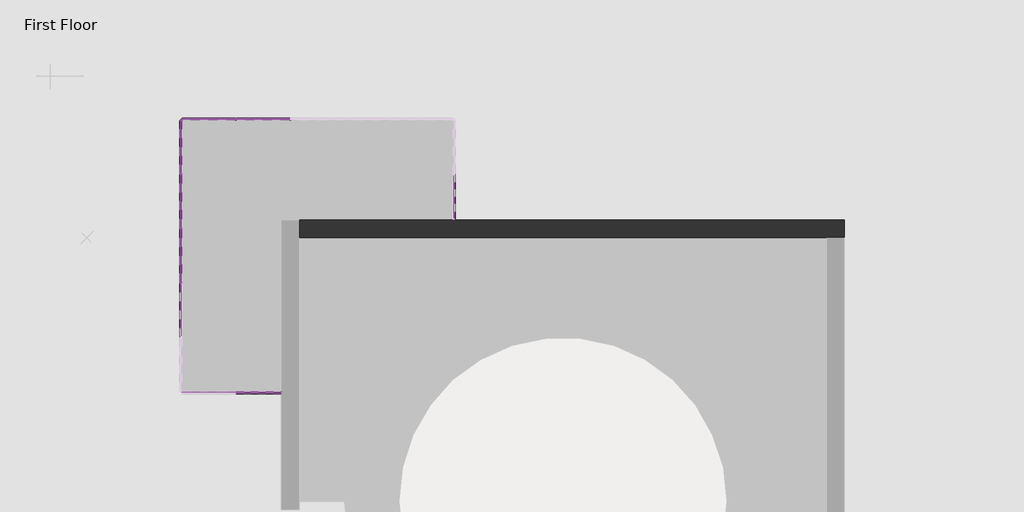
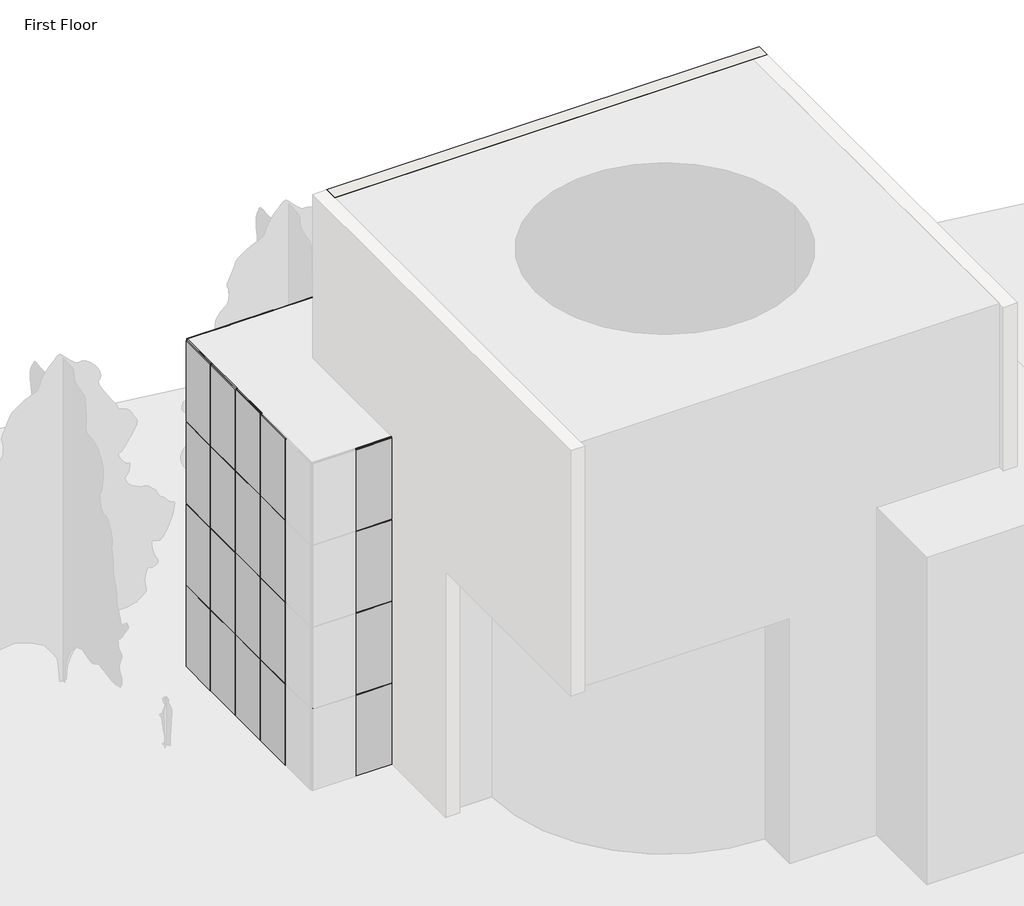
# One storey, part 4 of 5: 71 members, 32 plates, 1 wall.
"""IFC4 building model written with IfcOpenShell, lengths in millimetres."""

import ifcopenshell
import ifcopenshell.guid

model = None  # the IFC model being written
_history = None  # IfcOwnerHistory: only IFC2X3 demands one
_inside = {}  # id of a spatial element -> (the spatial element, [elements in it])
_under = {}  # id of a project, library or spatial element -> (it, [spatial elements below it])
_declared = {}  # id of a project -> (the project, [libraries it declares])
_typed = {}  # id of a type object -> (the type object, [elements of that type])
_made_of = {}  # id of a material, layer set ... -> (it, [elements and type objects made of it])


def new_model(schema):
    """Start an empty IFC model of exactly this schema.

    Asked for "IFC4X3", IfcOpenShell would pick the latest addendum, in which some entities
    have other attributes; the version numbers below select the first issue.
    IFC2X3 requires an IfcOwnerHistory on every rooted entity: one is made here for all.
    """
    global model, _history
    if schema == "IFC4X3":
        model = ifcopenshell.file(schema_version=(4, 3, 0, 0))
    else:
        model = ifcopenshell.file(schema=schema)
    _inside.clear()
    _under.clear()
    _declared.clear()
    _typed.clear()
    _made_of.clear()
    _history = None
    if model.schema == "IFC2X3":
        org = make("IfcOrganization", Name="unknown")
        user = make(
            "IfcPersonAndOrganization",
            ThePerson=make("IfcPerson", FamilyName="unknown"),
            TheOrganization=org,
        )
        app = make(
            "IfcApplication",
            ApplicationDeveloper=org,
            Version="unknown",
            ApplicationFullName="unknown",
            ApplicationIdentifier="unknown",
        )
        _history = make(
            "IfcOwnerHistory",
            OwningUser=user,
            OwningApplication=app,
            ChangeAction="ADDED",
            CreationDate=0,
        )
    return model


def make(cls, **values):
    """One entity of the class cls with the attributes given. An attribute that is None is left unset."""
    return model.create_entity(
        cls, **{name: value for name, value in values.items() if value is not None}
    )


def rooted(cls, **values):
    """An entity with a GlobalId (a new one), such as an element, a storey or a relation."""
    return make(cls, GlobalId=ifcopenshell.guid.new(), OwnerHistory=_history, **values)


def si_unit(unit_type, name, prefix=None):
    """IfcSIUnit, for example si_unit("LENGTHUNIT", "METRE", prefix="MILLI")."""
    return make("IfcSIUnit", UnitType=unit_type, Prefix=prefix, Name=name)


def assignment(units):
    """IfcUnitAssignment: the units of a project."""
    return None if units is None else make("IfcUnitAssignment", Units=units)


def point(xyz):
    """IfcCartesianPoint."""
    return None if xyz is None else make("IfcCartesianPoint", Coordinates=xyz)


def direction(xyz):
    """IfcDirection."""
    return None if xyz is None else make("IfcDirection", DirectionRatios=xyz)


def frame(location, z_axis=None, x_axis=None):
    """IfcAxis2Placement3D, a coordinate frame: its origin and axes. An axis left out is left unset."""
    return make(
        "IfcAxis2Placement3D",
        Location=point(location),
        Axis=direction(z_axis),
        RefDirection=direction(x_axis),
    )


def origin():
    """The frame at (0, 0, 0) with its axes left unset."""
    return frame((0.0, 0.0, 0.0))


def origin_with_axes():
    """The frame at (0, 0, 0) with the z axis (0, 0, 1) and the x axis (1, 0, 0) written out."""
    return frame((0.0, 0.0, 0.0), z_axis=(0.0, 0.0, 1.0), x_axis=(1.0, 0.0, 0.0))


def place(relative_to, where):
    """IfcLocalPlacement: puts the frame where relative to a parent placement (None: the world)."""
    return make(
        "IfcLocalPlacement", PlacementRelTo=relative_to, RelativePlacement=where
    )


def context(
    kind, dimensions, precision=None, world=None, true_north=None, identifier=None
):
    """IfcGeometricRepresentationContext, for example the 3D "Model" context."""
    return make(
        "IfcGeometricRepresentationContext",
        ContextIdentifier=identifier,
        ContextType=kind,
        CoordinateSpaceDimension=dimensions,
        Precision=precision,
        WorldCoordinateSystem=world,
        TrueNorth=true_north,
    )


def project(units=None, contexts=None):
    """IfcProject with its units and contexts."""
    return rooted(
        "IfcProject",
        Name="project",
        RepresentationContexts=contexts,
        UnitsInContext=assignment(units),
    )


def spatial(cls, under=None, at=None, **own):
    """A site, building, storey or space (cls), placed at a placement, below another one or the project."""
    s = rooted(cls, ObjectPlacement=at, **own)
    if under is not None:
        _under.setdefault(under.id(), (under, []))[1].append(s)
    return s


def polyline(points):
    """IfcPolyline through the points."""
    return make("IfcPolyline", Points=[point(p) for p in points])


def outline(outer, holes=None, kind="AREA"):
    """IfcArbitraryClosedProfileDef: a profile drawn as a closed curve; with holes, ...WithVoids."""
    if holes is None:
        return make("IfcArbitraryClosedProfileDef", ProfileType=kind, OuterCurve=outer)
    return make(
        "IfcArbitraryProfileDefWithVoids",
        ProfileType=kind,
        OuterCurve=outer,
        InnerCurves=holes,
    )


def extrude(swept, where, along, depth):
    """IfcExtrudedAreaSolid: the profile swept, set in the frame where, extruded along a direction by depth."""
    return make(
        "IfcExtrudedAreaSolid",
        SweptArea=swept,
        Position=where,
        ExtrudedDirection=direction(along),
        Depth=depth,
    )


def faces_of(points, faces, orient=None, outer=None):
    """IfcFace entities. A face is a list of loops; a loop is a list of indices into points, from 0.

    orient and outer hold one flag for each loop. By default every Orientation is true, the
    first loop of a face is its IfcFaceOuterBound and the others are IfcFaceBound.
    """
    made = []
    for i, loops in enumerate(faces):
        bounds = []
        for j, loop in enumerate(loops):
            is_outer = j == 0 if outer is None else outer[i][j]
            bounds.append(
                make(
                    "IfcFaceOuterBound" if is_outer else "IfcFaceBound",
                    Bound=make("IfcPolyLoop", Polygon=[points[k] for k in loop]),
                    Orientation=True if orient is None else orient[i][j],
                )
            )
        made.append(make("IfcFace", Bounds=bounds))
    return made


def faceted_brep(points, faces, orient=None, outer=None, voids=None):
    """IfcFacetedBrep: a solid bounded by flat faces; with voids (closed shells), ...WithVoids."""
    shared = [point(p) for p in points]
    hull = make("IfcClosedShell", CfsFaces=faces_of(shared, faces, orient, outer))
    if voids is None:
        return make("IfcFacetedBrep", Outer=hull)
    return make(
        "IfcFacetedBrepWithVoids",
        Outer=hull,
        Voids=[
            make(cls, CfsFaces=faces_of(shared, fs, o, b)) for cls, fs, o, b in voids
        ],
    )


def shape(context_of_items, identifier, shape_type, items):
    """IfcShapeRepresentation: the items that make up one representation, for example the "Body"."""
    return make(
        "IfcShapeRepresentation",
        ContextOfItems=context_of_items,
        RepresentationIdentifier=identifier,
        RepresentationType=shape_type,
        Items=items,
    )


def source(mapping_origin, context_of_items, identifier, shape_type, items):
    """IfcRepresentationMap: a shape defined once, which mapped items show again and again."""
    return make(
        "IfcRepresentationMap",
        MappingOrigin=mapping_origin,
        MappedRepresentation=shape(context_of_items, identifier, shape_type, items),
    )


def transform(
    local_origin,
    x_axis=None,
    y_axis=None,
    z_axis=None,
    scale=None,
    scale2=None,
    scale3=None,
    uniform=True,
):
    """IfcCartesianTransformationOperator3D, or its non-uniform kind. x_axis, y_axis, z_axis: its Axis1, 2, 3."""
    if uniform:
        return make(
            "IfcCartesianTransformationOperator3D",
            Axis1=direction(x_axis),
            Axis2=direction(y_axis),
            LocalOrigin=point(local_origin),
            Scale=scale,
            Axis3=direction(z_axis),
        )
    return make(
        "IfcCartesianTransformationOperator3DnonUniform",
        Axis1=direction(x_axis),
        Axis2=direction(y_axis),
        LocalOrigin=point(local_origin),
        Scale=scale,
        Axis3=direction(z_axis),
        Scale2=scale2,
        Scale3=scale3,
    )


def mapped(mapping_source, mapping_target):
    """IfcMappedItem: shows the shape of a source again, moved by a transform."""
    return make(
        "IfcMappedItem", MappingSource=mapping_source, MappingTarget=mapping_target
    )


def made_of(thing, what):
    """Note that an element or type object is made of a material, layer set ...; save() writes the relation."""
    if what is not None:
        _made_of.setdefault(what.id(), (what, []))[1].append(thing)
    return thing


def element(
    cls,
    number,
    at=None,
    inside=None,
    cuts=None,
    type_object=None,
    material=None,
    context=None,
    identifier="Body",
    shape_type=None,
    held_by="IfcProductDefinitionShape",
    body=None,
    shapes=None,
    **own,
):
    """One element of the class cls, such as IfcWall. Its Tag is "e" and its number.

    at: its placement. inside: the storey or other place that contains it. cuts: it is an
    opening in that element (IfcRelVoidsElement). A single representation is given by context,
    identifier, shape_type and body (its items); several are given by shapes. held_by: the class
    of the entity that holds the representations. save() writes the other relations.
    """
    e = rooted(cls, Tag="e%d" % number, ObjectPlacement=at, **own)
    if body is not None:
        shapes = [shape(context, identifier, shape_type, body)]
    if shapes is not None:
        e.Representation = make(held_by, Representations=shapes)
    if inside is not None:
        _inside.setdefault(inside.id(), (inside, []))[1].append(e)
    if cuts is not None:
        rooted(
            "IfcRelVoidsElement", RelatingBuildingElement=cuts, RelatedOpeningElement=e
        )
    if type_object is not None:
        _typed.setdefault(type_object.id(), (type_object, []))[1].append(e)
    return made_of(e, material)


def aggregate(whole, parts):
    """IfcRelAggregates: a whole, such as a stair, and the parts it consists of."""
    return rooted("IfcRelAggregates", RelatingObject=whole, RelatedObjects=parts)


def save(model, path):
    """Write the relations noted so far, then the file.

    IfcRelAggregates (storeys below a building ...), IfcRelContainedInSpatialStructure (elements
    in a storey), IfcRelDefinesByType, IfcRelAssociatesMaterial and IfcRelDeclares: one each for
    every whole, place, type object, material and project.
    """
    for whole, parts in _under.values():
        aggregate(whole, parts)
    for where, things in _inside.values():
        rooted(
            "IfcRelContainedInSpatialStructure",
            RelatedElements=things,
            RelatingStructure=where,
        )
    for kind, things in _typed.values():
        rooted("IfcRelDefinesByType", RelatedObjects=things, RelatingType=kind)
    for what, things in _made_of.values():
        rooted("IfcRelAssociatesMaterial", RelatedObjects=things, RelatingMaterial=what)
    for by, libraries in _declared.values():
        rooted("IfcRelDeclares", RelatingContext=by, RelatedDefinitions=libraries)
    model.write(path)


def member_40ce1a5c(model_context):
    return source(origin(), model_context, "Body", "SweptSolid", [
        extrude(outline(polyline([(12.7, 12.7), (12.7, -12.7), (-12.7, -12.7), (-12.7, 12.7), (12.7, 12.7)])), frame((0.0, 0.0, -1241.425), z_axis=(0.0, 0.0, 1.0), x_axis=(1.0, 0.0, 0.0)), (0.0, 0.0, 1.0), 1241.425),
    ])


def member_5e617a80(model_context):
    return source(origin(), model_context, "Body", "SweptSolid", [
        extrude(outline(polyline([(12.7, 12.7), (12.7, -12.7), (-12.7, -12.7), (-12.7, 12.7), (12.7, 12.7)])), frame((0.0, 0.0, -1485.9), z_axis=(0.0, 0.0, 1.0), x_axis=(1.0, 0.0, 0.0)), (0.0, 0.0, 1.0), 1485.9),
    ])


def member_74941792(model_context):
    return source(origin(), model_context, "Body", "SweptSolid", [
        extrude(outline(polyline([(0.0, 12.7), (0.0, -12.7), (-25.4, -12.7), (-25.4, 12.7), (0.0, 12.7)])), frame((0.0, 0.0, -1485.9), z_axis=(0.0, 0.0, 1.0), x_axis=(1.0, 0.0, 0.0)), (0.0, 0.0, 1.0), 1485.9),
    ])


def member_cbdb9076(model_context):
    return source(origin(), model_context, "Body", "SweptSolid", [
        extrude(outline(polyline([(12.7, 12.7), (12.7, -12.7), (-12.7, -12.7), (-12.7, 12.7), (12.7, 12.7)])), frame((0.0, 0.0, -3048.0), z_axis=(0.0, 0.0, 1.0), x_axis=(1.0, 0.0, 0.0)), (0.0, 0.0, 1.0), 3048.0),
    ])


def member_0d8d9af5(model_context):
    return source(origin(), model_context, "Body", "SweptSolid", [
        extrude(outline(polyline([(0.0, 12.7), (0.0, -12.7), (-25.4, -12.7), (-25.4, 12.7), (0.0, 12.7)])), frame((0.0, 0.0, -1241.425), z_axis=(0.0, 0.0, 1.0), x_axis=(1.0, 0.0, 0.0)), (0.0, 0.0, 1.0), 1241.425),
    ])


def member_7e523723(model_context):
    return source(origin(), model_context, "Body", "SweptSolid", [
        extrude(outline(polyline([(0.0, 12.7), (0.0, -12.7), (-25.4, -12.7), (-25.4, 12.7), (0.0, 12.7)])), frame((0.0, 0.0, -3048.0), z_axis=(0.0, 0.0, 1.0), x_axis=(1.0, 0.0, 0.0)), (0.0, 0.0, 1.0), 3048.0),
    ])


def member_9fd3d903(model_context):
    return source(origin(), model_context, "Body", "SweptSolid", [
        extrude(outline(polyline([(12.7, 12.7), (12.7, -12.7), (-12.7, -12.7), (-12.7, 12.7), (12.7, 12.7)])), frame((0.0, 0.0, -1498.6), z_axis=(0.0, 0.0, 1.0), x_axis=(1.0, 0.0, 0.0)), (0.0, 0.0, 1.0), 1498.6),
    ])


def member_6604d1e0(model_context):
    return source(origin(), model_context, "Body", "SweptSolid", [
        extrude(outline(polyline([(0.0, 12.7), (0.0, -12.7), (-25.4, -12.7), (-25.4, 12.7), (0.0, 12.7)])), frame((0.0, 0.0, -1498.6), z_axis=(0.0, 0.0, 1.0), x_axis=(1.0, 0.0, 0.0)), (0.0, 0.0, 1.0), 1498.6),
    ])


def member_be0b070d(model_context):
    return source(origin(), model_context, "Body", "SweptSolid", [
        extrude(outline(polyline([(0.0, 12.7), (0.0, -12.7), (-25.4, -12.7), (-25.4, 12.7), (0.0, 12.7)])), frame((0.0, 0.0, -1238.25), z_axis=(0.0, 0.0, 1.0), x_axis=(1.0, 0.0, 0.0)), (0.0, 0.0, 1.0), 1238.25),
    ])


def system_panel_glazed_9b7d687a(model_context):
    return source(origin(), model_context, "Body", "SweptSolid", [
        extrude(outline(polyline([(742.95, -44.45), (-742.95, -44.45), (-742.95, -19.05), (742.95, -19.05), (742.95, -44.45)])), origin_with_axes(), (0.0, 0.0, 1.0), 3009.9),
    ])


def system_panel_glazed_3ccd4ad1(model_context):
    return source(origin(), model_context, "Body", "SweptSolid", [
        extrude(outline(polyline([(620.7125, -44.45), (-620.7125, -44.45), (-620.7125, -19.05), (620.7125, -19.05), (620.7125, -44.45)])), origin_with_axes(), (0.0, 0.0, 1.0), 3009.9),
    ])


def system_panel_glazed_9a901b4a(model_context):
    return source(origin(), model_context, "Body", "SweptSolid", [
        extrude(outline(polyline([(742.95, -44.45), (-742.95, -44.45), (-742.95, -19.05), (742.95, -19.05), (742.95, -44.45)])), origin_with_axes(), (0.0, 0.0, 1.0), 3022.6),
    ])


def system_panel_glazed_ee91e337(model_context):
    return source(origin(), model_context, "Body", "SweptSolid", [
        extrude(outline(polyline([(620.7125, -44.45), (-620.7125, -44.45), (-620.7125, -19.05), (620.7125, -19.05), (620.7125, -44.45)])), origin_with_axes(), (0.0, 0.0, 1.0), 3022.6),
    ])


def system_panel_glazed_2d5e1d3d(model_context):
    return source(origin(), model_context, "Body", "SweptSolid", [
        extrude(outline(polyline([(749.3, -44.45), (-749.3, -44.45), (-749.3, -19.05), (749.3, -19.05), (749.3, -44.45)])), origin_with_axes(), (0.0, 0.0, 1.0), 3009.9),
    ])


def system_panel_glazed_37964ea6(model_context):
    return source(origin(), model_context, "Body", "SweptSolid", [
        extrude(outline(polyline([(749.3, -44.45), (-749.3, -44.45), (-749.3, -19.05), (749.3, -19.05), (749.3, -44.45)])), origin_with_axes(), (0.0, 0.0, 1.0), 3022.6),
    ])


def system_panel_glazed_a669fc9f(model_context):
    return source(origin(), model_context, "Body", "SweptSolid", [
        extrude(outline(polyline([(619.125, -44.45), (-619.125, -44.45), (-619.125, -19.05), (619.125, -19.05), (619.125, -44.45)])), origin_with_axes(), (0.0, 0.0, 1.0), 3009.9),
    ])


def system_panel_glazed_51c864c8(model_context):
    return source(origin(), model_context, "Body", "SweptSolid", [
        extrude(outline(polyline([(619.125, -44.45), (-619.125, -44.45), (-619.125, -19.05), (619.125, -19.05), (619.125, -44.45)])), origin_with_axes(), (0.0, 0.0, 1.0), 3022.6),
    ])


model = new_model("IFC4")

# Units and contexts
model_context = context("Model", 3, world=origin())
ifc_project = project(units=[si_unit("LENGTHUNIT", "METRE", prefix="MILLI")], contexts=[model_context])

# Site, building, storey
site = spatial("IfcSite", under=ifc_project)
building = spatial("IfcBuilding", under=site)
storey = spatial("IfcBuildingStorey", under=building, Name="First Floor", Elevation=0.0)

# Members
placement = place(None, origin())
member_shape = member_40ce1a5c(model_context)
element("IfcMember", 1, ObjectType="Rectangular Mullion : 1\" Square", at=placement, inside=storey, context=model_context, shape_type="MappedRepresentation", body=[
    mapped(member_shape, transform((-10360.9806157, 2362.0139224, 6096.0), x_axis=(0.0, 0.0, 1.0), y_axis=(0.0, -1.0, 0.0), z_axis=(1.0, 0.0, 0.0))),
])
element("IfcMember", 2, ObjectType="Rectangular Mullion : 1\" Square", at=placement, inside=storey, context=model_context, shape_type="MappedRepresentation", body=[
    mapped(member_shape, transform((-10360.9806157, 2362.0139224, 9144.0), x_axis=(0.0, 0.0, 1.0), y_axis=(0.0, -1.0, 0.0), z_axis=(1.0, 0.0, 0.0))),
])
element("IfcMember", 3, ObjectType="Rectangular Mullion : 1\" Square", at=placement, inside=storey, context=model_context, shape_type="MappedRepresentation", body=[
    mapped(member_shape, transform((-10360.9806157, 2362.0139224, 3048.0), x_axis=(0.0, 0.0, 1.0), y_axis=(0.0, -1.0, 0.0), z_axis=(1.0, 0.0, 0.0))),
])
member_2_shape = member_5e617a80(model_context)
element("IfcMember", 4, ObjectType="Rectangular Mullion : 1\" Square", at=placement, inside=storey, context=model_context, shape_type="MappedRepresentation", body=[
    mapped(member_2_shape, transform((-11627.8056157, 2362.0139224, 3048.0), x_axis=(0.0, 0.0, 1.0), y_axis=(0.0, -1.0, 0.0), z_axis=(1.0, 0.0, 0.0))),
])
element("IfcMember", 5, ObjectType="Rectangular Mullion : 1\" Square", at=placement, inside=storey, context=model_context, shape_type="MappedRepresentation", body=[
    mapped(member_2_shape, transform((-13139.1056157, 8470.7139224, 3048.0), x_axis=(0.0, 0.0, 1.0), y_axis=(-1.0, 0.0, 0.0), z_axis=(0.0, -1.0, 0.0))),
])
element("IfcMember", 6, ObjectType="Rectangular Mullion : 1\" Square", at=placement, inside=storey, context=model_context, shape_type="MappedRepresentation", body=[
    mapped(member_2_shape, transform((-13139.1056157, 8470.7139224, 6096.0), x_axis=(0.0, 0.0, 1.0), y_axis=(-1.0, 0.0, 0.0), z_axis=(0.0, -1.0, 0.0))),
])
element("IfcMember", 7, ObjectType="Rectangular Mullion : 1\" Square", at=placement, inside=storey, context=model_context, shape_type="MappedRepresentation", body=[
    mapped(member_2_shape, transform((-13139.1056157, 8470.7139224, 9144.0), x_axis=(0.0, 0.0, 1.0), y_axis=(-1.0, 0.0, 0.0), z_axis=(0.0, -1.0, 0.0))),
])
element("IfcMember", 8, ObjectType="Rectangular Mullion : 1\" Square", at=placement, inside=storey, context=model_context, shape_type="MappedRepresentation", body=[
    mapped(member_2_shape, transform((-13113.7056157, 9982.0139224, 3048.0), x_axis=(0.0, 0.0, 1.0), y_axis=(0.0, 1.0, 0.0), z_axis=(-1.0, 0.0, 0.0))),
])
element("IfcMember", 9, ObjectType="Rectangular Mullion : 1\" Square", at=placement, inside=storey, context=model_context, shape_type="MappedRepresentation", body=[
    mapped(member_2_shape, transform((-13113.7056157, 9982.0139224, 6096.0), x_axis=(0.0, 0.0, 1.0), y_axis=(0.0, 1.0, 0.0), z_axis=(-1.0, 0.0, 0.0))),
])
element("IfcMember", 10, ObjectType="Rectangular Mullion : 1\" Square", at=placement, inside=storey, context=model_context, shape_type="MappedRepresentation", body=[
    mapped(member_2_shape, transform((-13113.7056157, 9982.0139224, 9144.0), x_axis=(0.0, 0.0, 1.0), y_axis=(0.0, 1.0, 0.0), z_axis=(-1.0, 0.0, 0.0))),
])
member_3_shape = member_74941792(model_context)
element("IfcMember", 11, ObjectType="Rectangular Mullion : 1\" Square", at=placement, inside=storey, context=model_context, shape_type="MappedRepresentation", body=[
    mapped(member_3_shape, transform((-13139.1056157, 8470.7139224, 12192.0), x_axis=(0.0, 0.0, 1.0), y_axis=(-1.0, 0.0, 0.0), z_axis=(0.0, -1.0, 0.0))),
])
element("IfcMember", 12, ObjectType="Rectangular Mullion : 1\" Square", at=placement, inside=storey, context=model_context, shape_type="MappedRepresentation", body=[
    mapped(member_3_shape, transform((-13113.7056157, 9982.0139224, 12192.0), x_axis=(0.0, 0.0, 1.0), y_axis=(0.0, 1.0, 0.0), z_axis=(-1.0, 0.0, 0.0))),
])
member_4_shape = member_cbdb9076(model_context)
element("IfcMember", 13, ObjectType="Rectangular Mullion : 1\" Square", at=placement, inside=storey, context=model_context, shape_type="MappedRepresentation", body=[
    mapped(member_4_shape, transform((-13139.1056157, 8458.0139224, 3048.0), x_axis=(0.0, -1.0, 0.0), y_axis=(-1.0, 0.0, 0.0), z_axis=(0.0, 0.0, -1.0))),
])
element("IfcMember", 14, ObjectType="Rectangular Mullion : 1\" Square", at=placement, inside=storey, context=model_context, shape_type="MappedRepresentation", body=[
    mapped(member_4_shape, transform((-13139.1056157, 8458.0139224, 6096.0), x_axis=(0.0, -1.0, 0.0), y_axis=(-1.0, 0.0, 0.0), z_axis=(0.0, 0.0, -1.0))),
])
element("IfcMember", 15, ObjectType="Rectangular Mullion : 1\" Square", at=placement, inside=storey, context=model_context, shape_type="MappedRepresentation", body=[
    mapped(member_4_shape, transform((-13139.1056157, 6934.0139224, 3048.0), x_axis=(0.0, -1.0, 0.0), y_axis=(-1.0, 0.0, 0.0), z_axis=(0.0, 0.0, -1.0))),
])
element("IfcMember", 16, ObjectType="Rectangular Mullion : 1\" Square", at=placement, inside=storey, context=model_context, shape_type="MappedRepresentation", body=[
    mapped(member_4_shape, transform((-13139.1056157, 6934.0139224, 6096.0), x_axis=(0.0, -1.0, 0.0), y_axis=(-1.0, 0.0, 0.0), z_axis=(0.0, 0.0, -1.0))),
])
element("IfcMember", 17, ObjectType="Rectangular Mullion : 1\" Square", at=placement, inside=storey, context=model_context, shape_type="MappedRepresentation", body=[
    mapped(member_4_shape, transform((-13139.1056157, 5410.0139224, 3048.0), x_axis=(0.0, -1.0, 0.0), y_axis=(-1.0, 0.0, 0.0), z_axis=(0.0, 0.0, -1.0))),
])
element("IfcMember", 18, ObjectType="Rectangular Mullion : 1\" Square", at=placement, inside=storey, context=model_context, shape_type="MappedRepresentation", body=[
    mapped(member_4_shape, transform((-13139.1056157, 5410.0139224, 6096.0), x_axis=(0.0, -1.0, 0.0), y_axis=(-1.0, 0.0, 0.0), z_axis=(0.0, 0.0, -1.0))),
])
element("IfcMember", 19, ObjectType="Rectangular Mullion : 1\" Square", at=placement, inside=storey, context=model_context, shape_type="MappedRepresentation", body=[
    mapped(member_4_shape, transform((-10091.1056157, 9982.0139224, 3048.0), x_axis=(-1.0, 0.0, 0.0), y_axis=(0.0, 1.0, 0.0), z_axis=(0.0, 0.0, -1.0))),
])
element("IfcMember", 20, ObjectType="Rectangular Mullion : 1\" Square", at=placement, inside=storey, context=model_context, shape_type="MappedRepresentation", body=[
    mapped(member_4_shape, transform((-10091.1056157, 9982.0139224, 6096.0), x_axis=(-1.0, 0.0, 0.0), y_axis=(0.0, 1.0, 0.0), z_axis=(0.0, 0.0, -1.0))),
])
element("IfcMember", 21, ObjectType="Rectangular Mullion : 1\" Square", at=placement, inside=storey, context=model_context, shape_type="MappedRepresentation", body=[
    mapped(member_4_shape, transform((-11615.1056157, 9982.0139224, 3048.0), x_axis=(-1.0, 0.0, 0.0), y_axis=(0.0, 1.0, 0.0), z_axis=(0.0, 0.0, -1.0))),
])
element("IfcMember", 22, ObjectType="Rectangular Mullion : 1\" Square", at=placement, inside=storey, context=model_context, shape_type="MappedRepresentation", body=[
    mapped(member_4_shape, transform((-11615.1056157, 9982.0139224, 6096.0), x_axis=(-1.0, 0.0, 0.0), y_axis=(0.0, 1.0, 0.0), z_axis=(0.0, 0.0, -1.0))),
])
element("IfcMember", 23, ObjectType="Rectangular Mullion : 1\" Square", at=placement, inside=storey, context=model_context, shape_type="MappedRepresentation", body=[
    mapped(member_4_shape, transform((-13139.1056157, 8458.0139224, 9144.0), x_axis=(0.0, -1.0, 0.0), y_axis=(-1.0, 0.0, 0.0), z_axis=(0.0, 0.0, -1.0))),
])
element("IfcMember", 24, ObjectType="Rectangular Mullion : 1\" Square", at=placement, inside=storey, context=model_context, shape_type="MappedRepresentation", body=[
    mapped(member_4_shape, transform((-13139.1056157, 6934.0139224, 9144.0), x_axis=(0.0, -1.0, 0.0), y_axis=(-1.0, 0.0, 0.0), z_axis=(0.0, 0.0, -1.0))),
])
element("IfcMember", 25, ObjectType="Rectangular Mullion : 1\" Square", at=placement, inside=storey, context=model_context, shape_type="MappedRepresentation", body=[
    mapped(member_4_shape, transform((-13139.1056157, 5410.0139224, 9144.0), x_axis=(0.0, -1.0, 0.0), y_axis=(-1.0, 0.0, 0.0), z_axis=(0.0, 0.0, -1.0))),
])
element("IfcMember", 26, ObjectType="Rectangular Mullion : 1\" Square", at=placement, inside=storey, context=model_context, shape_type="MappedRepresentation", body=[
    mapped(member_4_shape, transform((-10091.1056157, 9982.0139224, 9144.0), x_axis=(-1.0, 0.0, 0.0), y_axis=(0.0, 1.0, 0.0), z_axis=(0.0, 0.0, -1.0))),
])
element("IfcMember", 27, ObjectType="Rectangular Mullion : 1\" Square", at=placement, inside=storey, context=model_context, shape_type="MappedRepresentation", body=[
    mapped(member_4_shape, transform((-11615.1056157, 9982.0139224, 9144.0), x_axis=(-1.0, 0.0, 0.0), y_axis=(0.0, 1.0, 0.0), z_axis=(0.0, 0.0, -1.0))),
])
element("IfcMember", 28, ObjectType="Rectangular Mullion : 1\" Square", at=placement, inside=storey, context=model_context, shape_type="MappedRepresentation", body=[
    mapped(member_4_shape, transform((-11615.1056157, 2362.0139224, 0.0), x_axis=(1.0, 0.0, 0.0), y_axis=(0.0, -1.0, 0.0), z_axis=(0.0, 0.0, -1.0))),
])
element("IfcMember", 29, ObjectType="Rectangular Mullion : 1\" Square", at=placement, inside=storey, context=model_context, shape_type="MappedRepresentation", body=[
    mapped(member_4_shape, transform((-13139.1056157, 8458.0139224, 0.0), x_axis=(0.0, -1.0, 0.0), y_axis=(-1.0, 0.0, 0.0), z_axis=(0.0, 0.0, -1.0))),
])
element("IfcMember", 30, ObjectType="Rectangular Mullion : 1\" Square", at=placement, inside=storey, context=model_context, shape_type="MappedRepresentation", body=[
    mapped(member_4_shape, transform((-13139.1056157, 6934.0139224, 0.0), x_axis=(0.0, -1.0, 0.0), y_axis=(-1.0, 0.0, 0.0), z_axis=(0.0, 0.0, -1.0))),
])
element("IfcMember", 31, ObjectType="Rectangular Mullion : 1\" Square", at=placement, inside=storey, context=model_context, shape_type="MappedRepresentation", body=[
    mapped(member_4_shape, transform((-13139.1056157, 5410.0139224, 0.0), x_axis=(0.0, -1.0, 0.0), y_axis=(-1.0, 0.0, 0.0), z_axis=(0.0, 0.0, -1.0))),
])
element("IfcMember", 32, ObjectType="Rectangular Mullion : 1\" Square", at=placement, inside=storey, context=model_context, shape_type="MappedRepresentation", body=[
    mapped(member_4_shape, transform((-10091.1056157, 9982.0139224, 0.0), x_axis=(-1.0, 0.0, 0.0), y_axis=(0.0, 1.0, 0.0), z_axis=(0.0, 0.0, -1.0))),
])
element("IfcMember", 33, ObjectType="Rectangular Mullion : 1\" Square", at=placement, inside=storey, context=model_context, shape_type="MappedRepresentation", body=[
    mapped(member_4_shape, transform((-11615.1056157, 9982.0139224, 0.0), x_axis=(-1.0, 0.0, 0.0), y_axis=(0.0, 1.0, 0.0), z_axis=(0.0, 0.0, -1.0))),
])
element("IfcMember", 34, ObjectType="Rectangular Mullion : 1\" Square", at=placement, inside=storey, context=model_context, shape_type="MappedRepresentation", body=[
    mapped(member_3_shape, transform((-13139.1056157, 9956.6139224, 0.0), x_axis=(0.0, 0.0, -1.0), y_axis=(-1.0, 0.0, 0.0), z_axis=(0.0, 1.0, 0.0))),
])
element("IfcMember", 35, ObjectType="Rectangular Mullion : 1\" Square", at=placement, inside=storey, context=model_context, shape_type="MappedRepresentation", body=[
    mapped(member_3_shape, transform((-11627.8056157, 9982.0139224, 0.0), x_axis=(0.0, 0.0, -1.0), y_axis=(0.0, 1.0, 0.0), z_axis=(1.0, 0.0, 0.0))),
])
member_5_shape = member_0d8d9af5(model_context)
element("IfcMember", 36, ObjectType="Rectangular Mullion : 1\" Square", at=placement, inside=storey, context=model_context, shape_type="MappedRepresentation", body=[
    mapped(member_5_shape, transform((-10360.9806157, 2362.0139224, 12192.0), x_axis=(0.0, 0.0, 1.0), y_axis=(0.0, -1.0, 0.0), z_axis=(1.0, 0.0, 0.0))),
])
member_6_shape = member_7e523723(model_context)
element("IfcMember", 37, ObjectType="Rectangular Mullion : 1\" Square", at=placement, inside=storey, context=model_context, shape_type="MappedRepresentation", body=[
    mapped(member_6_shape, transform((-13139.1056157, 9982.0139224, 12192.0), x_axis=(0.0, 1.0, 0.0), y_axis=(-1.0, 0.0, 0.0), z_axis=(0.0, 0.0, 1.0))),
])
element("IfcMember", 38, ObjectType="Rectangular Mullion : 1\" Square", at=placement, inside=storey, context=model_context, shape_type="MappedRepresentation", body=[
    mapped(member_6_shape, transform((-5519.1056157, 7178.4889224, 12192.0), x_axis=(0.0, -1.0, 0.0), y_axis=(1.0, 0.0, 0.0), z_axis=(0.0, 0.0, 1.0))),
])
element("IfcMember", 39, ObjectType="Rectangular Mullion : 1\" Square", at=placement, inside=storey, context=model_context, shape_type="MappedRepresentation", body=[
    mapped(member_6_shape, transform((-10335.5806157, 2362.0139224, 3048.0), x_axis=(1.0, 0.0, 0.0), y_axis=(0.0, -1.0, 0.0), z_axis=(0.0, 0.0, -1.0))),
])
element("IfcMember", 40, ObjectType="Rectangular Mullion : 1\" Square", at=placement, inside=storey, context=model_context, shape_type="MappedRepresentation", body=[
    mapped(member_6_shape, transform((-10335.5806157, 2362.0139224, 6096.0), x_axis=(1.0, 0.0, 0.0), y_axis=(0.0, -1.0, 0.0), z_axis=(0.0, 0.0, -1.0))),
])
element("IfcMember", 41, ObjectType="Rectangular Mullion : 1\" Square", at=placement, inside=storey, context=model_context, shape_type="MappedRepresentation", body=[
    mapped(member_6_shape, transform((-13139.1056157, 9982.0139224, 3048.0), x_axis=(-1.0, 0.0, 0.0), y_axis=(0.0, 1.0, 0.0), z_axis=(0.0, 0.0, -1.0))),
])
element("IfcMember", 42, ObjectType="Rectangular Mullion : 1\" Square", at=placement, inside=storey, context=model_context, shape_type="MappedRepresentation", body=[
    mapped(member_6_shape, transform((-13139.1056157, 9982.0139224, 6096.0), x_axis=(-1.0, 0.0, 0.0), y_axis=(0.0, 1.0, 0.0), z_axis=(0.0, 0.0, -1.0))),
])
element("IfcMember", 43, ObjectType="Rectangular Mullion : 1\" Square", at=placement, inside=storey, context=model_context, shape_type="MappedRepresentation", body=[
    mapped(member_6_shape, transform((-10335.5806157, 2362.0139224, 9144.0), x_axis=(1.0, 0.0, 0.0), y_axis=(0.0, -1.0, 0.0), z_axis=(0.0, 0.0, -1.0))),
])
element("IfcMember", 44, ObjectType="Rectangular Mullion : 1\" Square", at=placement, inside=storey, context=model_context, shape_type="MappedRepresentation", body=[
    mapped(member_6_shape, transform((-13139.1056157, 9982.0139224, 9144.0), x_axis=(-1.0, 0.0, 0.0), y_axis=(0.0, 1.0, 0.0), z_axis=(0.0, 0.0, -1.0))),
])
element("IfcMember", 45, ObjectType="Rectangular Mullion : 1\" Square", at=placement, inside=storey, context=model_context, shape_type="MappedRepresentation", body=[
    mapped(member_6_shape, transform((-13139.1056157, 9982.0139224, 3048.0), x_axis=(0.0, 1.0, 0.0), y_axis=(-1.0, 0.0, 0.0), z_axis=(0.0, 0.0, 1.0))),
])
element("IfcMember", 46, ObjectType="Rectangular Mullion : 1\" Square", at=placement, inside=storey, context=model_context, shape_type="MappedRepresentation", body=[
    mapped(member_6_shape, transform((-5519.1056157, 7178.4889224, 3048.0), x_axis=(0.0, -1.0, 0.0), y_axis=(1.0, 0.0, 0.0), z_axis=(0.0, 0.0, 1.0))),
])
element("IfcMember", 47, ObjectType="Rectangular Mullion : 1\" Square", at=placement, inside=storey, context=model_context, shape_type="MappedRepresentation", body=[
    mapped(member_6_shape, transform((-13139.1056157, 9982.0139224, 6096.0), x_axis=(0.0, 1.0, 0.0), y_axis=(-1.0, 0.0, 0.0), z_axis=(0.0, 0.0, 1.0))),
])
element("IfcMember", 48, ObjectType="Rectangular Mullion : 1\" Square", at=placement, inside=storey, context=model_context, shape_type="MappedRepresentation", body=[
    mapped(member_6_shape, transform((-13139.1056157, 9982.0139224, 9144.0), x_axis=(0.0, 1.0, 0.0), y_axis=(-1.0, 0.0, 0.0), z_axis=(0.0, 0.0, 1.0))),
])
element("IfcMember", 49, ObjectType="Rectangular Mullion : 1\" Square", at=placement, inside=storey, context=model_context, shape_type="MappedRepresentation", body=[
    mapped(member_6_shape, transform((-5519.1056157, 7178.4889224, 6096.0), x_axis=(0.0, -1.0, 0.0), y_axis=(1.0, 0.0, 0.0), z_axis=(0.0, 0.0, 1.0))),
])
element("IfcMember", 50, ObjectType="Rectangular Mullion : 1\" Square", at=placement, inside=storey, context=model_context, shape_type="MappedRepresentation", body=[
    mapped(member_6_shape, transform((-5519.1056157, 7178.4889224, 9144.0), x_axis=(0.0, -1.0, 0.0), y_axis=(1.0, 0.0, 0.0), z_axis=(0.0, 0.0, 1.0))),
])
element("IfcMember", 51, ObjectType="Rectangular Mullion : 1\" Square", at=placement, inside=storey, context=model_context, shape_type="MappedRepresentation", body=[
    mapped(member_6_shape, transform((-10335.5806157, 2362.0139224, 0.0), x_axis=(1.0, 0.0, 0.0), y_axis=(0.0, -1.0, 0.0), z_axis=(0.0, 0.0, -1.0))),
])
element("IfcMember", 52, ObjectType="Rectangular Mullion : 1\" Square", at=placement, inside=storey, context=model_context, shape_type="MappedRepresentation", body=[
    mapped(member_6_shape, transform((-13139.1056157, 9982.0139224, 0.0), x_axis=(-1.0, 0.0, 0.0), y_axis=(0.0, 1.0, 0.0), z_axis=(0.0, 0.0, -1.0))),
])
member_7_shape = member_9fd3d903(model_context)
element("IfcMember", 53, ObjectType="Rectangular Mullion : 1\" Square", at=placement, inside=storey, context=model_context, shape_type="MappedRepresentation", body=[
    mapped(member_7_shape, transform((-13139.1056157, 6946.7139224, 3048.0), x_axis=(0.0, 0.0, 1.0), y_axis=(-1.0, 0.0, 0.0), z_axis=(0.0, -1.0, 0.0))),
])
element("IfcMember", 54, ObjectType="Rectangular Mullion : 1\" Square", at=placement, inside=storey, context=model_context, shape_type="MappedRepresentation", body=[
    mapped(member_7_shape, transform((-13139.1056157, 5422.7139224, 3048.0), x_axis=(0.0, 0.0, 1.0), y_axis=(-1.0, 0.0, 0.0), z_axis=(0.0, -1.0, 0.0))),
])
element("IfcMember", 55, ObjectType="Rectangular Mullion : 1\" Square", at=placement, inside=storey, context=model_context, shape_type="MappedRepresentation", body=[
    mapped(member_7_shape, transform((-13139.1056157, 6946.7139224, 6096.0), x_axis=(0.0, 0.0, 1.0), y_axis=(-1.0, 0.0, 0.0), z_axis=(0.0, -1.0, 0.0))),
])
element("IfcMember", 56, ObjectType="Rectangular Mullion : 1\" Square", at=placement, inside=storey, context=model_context, shape_type="MappedRepresentation", body=[
    mapped(member_7_shape, transform((-13139.1056157, 5422.7139224, 6096.0), x_axis=(0.0, 0.0, 1.0), y_axis=(-1.0, 0.0, 0.0), z_axis=(0.0, -1.0, 0.0))),
])
element("IfcMember", 57, ObjectType="Rectangular Mullion : 1\" Square", at=placement, inside=storey, context=model_context, shape_type="MappedRepresentation", body=[
    mapped(member_7_shape, transform((-13139.1056157, 6946.7139224, 9144.0), x_axis=(0.0, 0.0, 1.0), y_axis=(-1.0, 0.0, 0.0), z_axis=(0.0, -1.0, 0.0))),
])
element("IfcMember", 58, ObjectType="Rectangular Mullion : 1\" Square", at=placement, inside=storey, context=model_context, shape_type="MappedRepresentation", body=[
    mapped(member_7_shape, transform((-13139.1056157, 5422.7139224, 9144.0), x_axis=(0.0, 0.0, 1.0), y_axis=(-1.0, 0.0, 0.0), z_axis=(0.0, -1.0, 0.0))),
])
element("IfcMember", 59, ObjectType="Rectangular Mullion : 1\" Square", at=placement, inside=storey, context=model_context, shape_type="MappedRepresentation", body=[
    mapped(member_7_shape, transform((-10078.4056157, 9982.0139224, 3048.0), x_axis=(0.0, 0.0, 1.0), y_axis=(0.0, 1.0, 0.0), z_axis=(-1.0, 0.0, 0.0))),
])
element("IfcMember", 60, ObjectType="Rectangular Mullion : 1\" Square", at=placement, inside=storey, context=model_context, shape_type="MappedRepresentation", body=[
    mapped(member_7_shape, transform((-11602.4056157, 9982.0139224, 3048.0), x_axis=(0.0, 0.0, 1.0), y_axis=(0.0, 1.0, 0.0), z_axis=(-1.0, 0.0, 0.0))),
])
element("IfcMember", 61, ObjectType="Rectangular Mullion : 1\" Square", at=placement, inside=storey, context=model_context, shape_type="MappedRepresentation", body=[
    mapped(member_7_shape, transform((-10078.4056157, 9982.0139224, 6096.0), x_axis=(0.0, 0.0, 1.0), y_axis=(0.0, 1.0, 0.0), z_axis=(-1.0, 0.0, 0.0))),
])
element("IfcMember", 62, ObjectType="Rectangular Mullion : 1\" Square", at=placement, inside=storey, context=model_context, shape_type="MappedRepresentation", body=[
    mapped(member_7_shape, transform((-11602.4056157, 9982.0139224, 6096.0), x_axis=(0.0, 0.0, 1.0), y_axis=(0.0, 1.0, 0.0), z_axis=(-1.0, 0.0, 0.0))),
])
element("IfcMember", 63, ObjectType="Rectangular Mullion : 1\" Square", at=placement, inside=storey, context=model_context, shape_type="MappedRepresentation", body=[
    mapped(member_7_shape, transform((-11602.4056157, 9982.0139224, 9144.0), x_axis=(0.0, 0.0, 1.0), y_axis=(0.0, 1.0, 0.0), z_axis=(-1.0, 0.0, 0.0))),
])
member_8_shape = member_6604d1e0(model_context)
element("IfcMember", 64, ObjectType="Rectangular Mullion : 1\" Square", at=placement, inside=storey, context=model_context, shape_type="MappedRepresentation", body=[
    mapped(member_8_shape, transform((-13139.1056157, 6946.7139224, 12192.0), x_axis=(0.0, 0.0, 1.0), y_axis=(-1.0, 0.0, 0.0), z_axis=(0.0, -1.0, 0.0))),
])
element("IfcMember", 65, ObjectType="Rectangular Mullion : 1\" Square", at=placement, inside=storey, context=model_context, shape_type="MappedRepresentation", body=[
    mapped(member_8_shape, transform((-13139.1056157, 5422.7139224, 12192.0), x_axis=(0.0, 0.0, 1.0), y_axis=(-1.0, 0.0, 0.0), z_axis=(0.0, -1.0, 0.0))),
])
element("IfcMember", 66, ObjectType="Rectangular Mullion : 1\" Square", at=placement, inside=storey, context=model_context, shape_type="MappedRepresentation", body=[
    mapped(member_8_shape, transform((-10078.4056157, 9982.0139224, 12192.0), x_axis=(0.0, 0.0, 1.0), y_axis=(0.0, 1.0, 0.0), z_axis=(-1.0, 0.0, 0.0))),
])
element("IfcMember", 67, ObjectType="Rectangular Mullion : 1\" Square", at=placement, inside=storey, context=model_context, shape_type="MappedRepresentation", body=[
    mapped(member_8_shape, transform((-11602.4056157, 9982.0139224, 12192.0), x_axis=(0.0, 0.0, 1.0), y_axis=(0.0, 1.0, 0.0), z_axis=(-1.0, 0.0, 0.0))),
])
element("IfcMember", 68, ObjectType="Rectangular Mullion : 1\" Square", at=placement, inside=storey, context=model_context, shape_type="MappedRepresentation", body=[
    mapped(member_8_shape, transform((-13139.1056157, 8445.3139224, 0.0), x_axis=(0.0, 0.0, -1.0), y_axis=(-1.0, 0.0, 0.0), z_axis=(0.0, 1.0, 0.0))),
])
element("IfcMember", 69, ObjectType="Rectangular Mullion : 1\" Square", at=placement, inside=storey, context=model_context, shape_type="MappedRepresentation", body=[
    mapped(member_8_shape, transform((-13139.1056157, 6921.3139224, 0.0), x_axis=(0.0, 0.0, -1.0), y_axis=(-1.0, 0.0, 0.0), z_axis=(0.0, 1.0, 0.0))),
])
element("IfcMember", 70, ObjectType="Rectangular Mullion : 1\" Square", at=placement, inside=storey, context=model_context, shape_type="MappedRepresentation", body=[
    mapped(member_8_shape, transform((-13139.1056157, 5397.3139224, 0.0), x_axis=(0.0, 0.0, -1.0), y_axis=(-1.0, 0.0, 0.0), z_axis=(0.0, 1.0, 0.0))),
])
member_9_shape = member_be0b070d(model_context)
element("IfcMember", 71, ObjectType="Rectangular Mullion : 1\" Square", at=placement, inside=storey, context=model_context, shape_type="MappedRepresentation", body=[
    mapped(member_9_shape, transform((-5519.1056157, 7203.8889224, 0.0), x_axis=(0.0, 0.0, -1.0), y_axis=(1.0, 0.0, 0.0), z_axis=(0.0, -1.0, 0.0))),
])

# Plates
system_panel_glazed_shape = system_panel_glazed_9b7d687a(model_context)
element("IfcPlate", 72, ObjectType="System Panel : Glazed", at=placement, inside=storey, context=model_context, shape_type="MappedRepresentation", body=[
    mapped(system_panel_glazed_shape, transform((-13139.1056157, 9213.6639224, 25.4), x_axis=(0.0, -1.0, 0.0), y_axis=(1.0, 0.0, 0.0), z_axis=(0.0, 0.0, 1.0))),
])
element("IfcPlate", 73, ObjectType="System Panel : Glazed", at=placement, inside=storey, context=model_context, shape_type="MappedRepresentation", body=[
    mapped(system_panel_glazed_shape, transform((-13139.1056157, 9213.6639224, 9156.7), x_axis=(0.0, -1.0, 0.0), y_axis=(1.0, 0.0, 0.0), z_axis=(0.0, 0.0, 1.0))),
])
element("IfcPlate", 74, ObjectType="System Panel : Glazed", at=placement, inside=storey, context=model_context, shape_type="MappedRepresentation", body=[
    mapped(system_panel_glazed_shape, transform((-12370.7556157, 9982.0139224, 25.4), x_axis=(-1.0, 0.0, 0.0), y_axis=(0.0, -1.0, 0.0), z_axis=(0.0, 0.0, 1.0))),
])
element("IfcPlate", 75, ObjectType="System Panel : Glazed", at=placement, inside=storey, context=model_context, shape_type="MappedRepresentation", body=[
    mapped(system_panel_glazed_shape, transform((-12370.7556157, 9982.0139224, 9156.7), x_axis=(-1.0, 0.0, 0.0), y_axis=(0.0, -1.0, 0.0), z_axis=(0.0, 0.0, 1.0))),
])
system_panel_glazed_2_shape = system_panel_glazed_3ccd4ad1(model_context)
element("IfcPlate", 76, ObjectType="System Panel : Glazed", at=placement, inside=storey, context=model_context, shape_type="MappedRepresentation", body=[
    mapped(system_panel_glazed_2_shape, transform((-10981.6931157, 2362.0139224, 25.4), x_axis=(1.0, 0.0, 0.0), y_axis=(0.0, 1.0, 0.0), z_axis=(0.0, 0.0, 1.0))),
])
element("IfcPlate", 77, ObjectType="System Panel : Glazed", at=placement, inside=storey, context=model_context, shape_type="MappedRepresentation", body=[
    mapped(system_panel_glazed_2_shape, transform((-10981.6931157, 2362.0139224, 9156.7), x_axis=(1.0, 0.0, 0.0), y_axis=(0.0, 1.0, 0.0), z_axis=(0.0, 0.0, 1.0))),
])
system_panel_glazed_3_shape = system_panel_glazed_9a901b4a(model_context)
element("IfcPlate", 78, ObjectType="System Panel : Glazed", at=placement, inside=storey, context=model_context, shape_type="MappedRepresentation", body=[
    mapped(system_panel_glazed_3_shape, transform((-13139.1056157, 9213.6639224, 3060.7), x_axis=(0.0, -1.0, 0.0), y_axis=(1.0, 0.0, 0.0), z_axis=(0.0, 0.0, 1.0))),
])
element("IfcPlate", 79, ObjectType="System Panel : Glazed", at=placement, inside=storey, context=model_context, shape_type="MappedRepresentation", body=[
    mapped(system_panel_glazed_3_shape, transform((-13139.1056157, 9213.6639224, 6108.7), x_axis=(0.0, -1.0, 0.0), y_axis=(1.0, 0.0, 0.0), z_axis=(0.0, 0.0, 1.0))),
])
element("IfcPlate", 80, ObjectType="System Panel : Glazed", at=placement, inside=storey, context=model_context, shape_type="MappedRepresentation", body=[
    mapped(system_panel_glazed_3_shape, transform((-12370.7556157, 9982.0139224, 3060.7), x_axis=(-1.0, 0.0, 0.0), y_axis=(0.0, -1.0, 0.0), z_axis=(0.0, 0.0, 1.0))),
])
element("IfcPlate", 81, ObjectType="System Panel : Glazed", at=placement, inside=storey, context=model_context, shape_type="MappedRepresentation", body=[
    mapped(system_panel_glazed_3_shape, transform((-12370.7556157, 9982.0139224, 6108.7), x_axis=(-1.0, 0.0, 0.0), y_axis=(0.0, -1.0, 0.0), z_axis=(0.0, 0.0, 1.0))),
])
system_panel_glazed_4_shape = system_panel_glazed_ee91e337(model_context)
element("IfcPlate", 82, ObjectType="System Panel : Glazed", at=placement, inside=storey, context=model_context, shape_type="MappedRepresentation", body=[
    mapped(system_panel_glazed_4_shape, transform((-10981.6931157, 2362.0139224, 3060.7), x_axis=(1.0, 0.0, 0.0), y_axis=(0.0, 1.0, 0.0), z_axis=(0.0, 0.0, 1.0))),
])
element("IfcPlate", 83, ObjectType="System Panel : Glazed", at=placement, inside=storey, context=model_context, shape_type="MappedRepresentation", body=[
    mapped(system_panel_glazed_4_shape, transform((-10981.6931157, 2362.0139224, 6108.7), x_axis=(1.0, 0.0, 0.0), y_axis=(0.0, 1.0, 0.0), z_axis=(0.0, 0.0, 1.0))),
])
system_panel_glazed_5_shape = system_panel_glazed_2d5e1d3d(model_context)
element("IfcPlate", 84, ObjectType="System Panel : Glazed", at=placement, inside=storey, context=model_context, shape_type="MappedRepresentation", body=[
    mapped(system_panel_glazed_5_shape, transform((-13139.1056157, 7696.0139224, 25.4), x_axis=(0.0, -1.0, 0.0), y_axis=(1.0, 0.0, 0.0), z_axis=(0.0, 0.0, 1.0))),
])
element("IfcPlate", 85, ObjectType="System Panel : Glazed", at=placement, inside=storey, context=model_context, shape_type="MappedRepresentation", body=[
    mapped(system_panel_glazed_5_shape, transform((-13139.1056157, 6172.0139224, 25.4), x_axis=(0.0, -1.0, 0.0), y_axis=(1.0, 0.0, 0.0), z_axis=(0.0, 0.0, 1.0))),
])
element("IfcPlate", 86, ObjectType="System Panel : Glazed", at=placement, inside=storey, context=model_context, shape_type="MappedRepresentation", body=[
    mapped(system_panel_glazed_5_shape, transform((-13139.1056157, 4648.0139224, 25.4), x_axis=(0.0, -1.0, 0.0), y_axis=(1.0, 0.0, 0.0), z_axis=(0.0, 0.0, 1.0))),
])
element("IfcPlate", 87, ObjectType="System Panel : Glazed", at=placement, inside=storey, context=model_context, shape_type="MappedRepresentation", body=[
    mapped(system_panel_glazed_5_shape, transform((-13139.1056157, 7696.0139224, 9156.7), x_axis=(0.0, -1.0, 0.0), y_axis=(1.0, 0.0, 0.0), z_axis=(0.0, 0.0, 1.0))),
])
element("IfcPlate", 88, ObjectType="System Panel : Glazed", at=placement, inside=storey, context=model_context, shape_type="MappedRepresentation", body=[
    mapped(system_panel_glazed_5_shape, transform((-13139.1056157, 6172.0139224, 9156.7), x_axis=(0.0, -1.0, 0.0), y_axis=(1.0, 0.0, 0.0), z_axis=(0.0, 0.0, 1.0))),
])
element("IfcPlate", 89, ObjectType="System Panel : Glazed", at=placement, inside=storey, context=model_context, shape_type="MappedRepresentation", body=[
    mapped(system_panel_glazed_5_shape, transform((-13139.1056157, 4648.0139224, 9156.7), x_axis=(0.0, -1.0, 0.0), y_axis=(1.0, 0.0, 0.0), z_axis=(0.0, 0.0, 1.0))),
])
element("IfcPlate", 90, ObjectType="System Panel : Glazed", at=placement, inside=storey, context=model_context, shape_type="MappedRepresentation", body=[
    mapped(system_panel_glazed_5_shape, transform((-10853.1056157, 9982.0139224, 25.4), x_axis=(-1.0, 0.0, 0.0), y_axis=(0.0, -1.0, 0.0), z_axis=(0.0, 0.0, 1.0))),
])
element("IfcPlate", 91, ObjectType="System Panel : Glazed", at=placement, inside=storey, context=model_context, shape_type="MappedRepresentation", body=[
    mapped(system_panel_glazed_5_shape, transform((-10853.1056157, 9982.0139224, 9156.7), x_axis=(-1.0, 0.0, 0.0), y_axis=(0.0, -1.0, 0.0), z_axis=(0.0, 0.0, 1.0))),
])
system_panel_glazed_6_shape = system_panel_glazed_37964ea6(model_context)
element("IfcPlate", 92, ObjectType="System Panel : Glazed", at=placement, inside=storey, context=model_context, shape_type="MappedRepresentation", body=[
    mapped(system_panel_glazed_6_shape, transform((-13139.1056157, 7696.0139224, 3060.7), x_axis=(0.0, -1.0, 0.0), y_axis=(1.0, 0.0, 0.0), z_axis=(0.0, 0.0, 1.0))),
])
element("IfcPlate", 93, ObjectType="System Panel : Glazed", at=placement, inside=storey, context=model_context, shape_type="MappedRepresentation", body=[
    mapped(system_panel_glazed_6_shape, transform((-13139.1056157, 6172.0139224, 3060.7), x_axis=(0.0, -1.0, 0.0), y_axis=(1.0, 0.0, 0.0), z_axis=(0.0, 0.0, 1.0))),
])
element("IfcPlate", 94, ObjectType="System Panel : Glazed", at=placement, inside=storey, context=model_context, shape_type="MappedRepresentation", body=[
    mapped(system_panel_glazed_6_shape, transform((-13139.1056157, 4648.0139224, 3060.7), x_axis=(0.0, -1.0, 0.0), y_axis=(1.0, 0.0, 0.0), z_axis=(0.0, 0.0, 1.0))),
])
element("IfcPlate", 95, ObjectType="System Panel : Glazed", at=placement, inside=storey, context=model_context, shape_type="MappedRepresentation", body=[
    mapped(system_panel_glazed_6_shape, transform((-13139.1056157, 7696.0139224, 6108.7), x_axis=(0.0, -1.0, 0.0), y_axis=(1.0, 0.0, 0.0), z_axis=(0.0, 0.0, 1.0))),
])
element("IfcPlate", 96, ObjectType="System Panel : Glazed", at=placement, inside=storey, context=model_context, shape_type="MappedRepresentation", body=[
    mapped(system_panel_glazed_6_shape, transform((-13139.1056157, 6172.0139224, 6108.7), x_axis=(0.0, -1.0, 0.0), y_axis=(1.0, 0.0, 0.0), z_axis=(0.0, 0.0, 1.0))),
])
element("IfcPlate", 97, ObjectType="System Panel : Glazed", at=placement, inside=storey, context=model_context, shape_type="MappedRepresentation", body=[
    mapped(system_panel_glazed_6_shape, transform((-13139.1056157, 4648.0139224, 6108.7), x_axis=(0.0, -1.0, 0.0), y_axis=(1.0, 0.0, 0.0), z_axis=(0.0, 0.0, 1.0))),
])
element("IfcPlate", 98, ObjectType="System Panel : Glazed", at=placement, inside=storey, context=model_context, shape_type="MappedRepresentation", body=[
    mapped(system_panel_glazed_6_shape, transform((-10853.1056157, 9982.0139224, 3060.7), x_axis=(-1.0, 0.0, 0.0), y_axis=(0.0, -1.0, 0.0), z_axis=(0.0, 0.0, 1.0))),
])
element("IfcPlate", 99, ObjectType="System Panel : Glazed", at=placement, inside=storey, context=model_context, shape_type="MappedRepresentation", body=[
    mapped(system_panel_glazed_6_shape, transform((-10853.1056157, 9982.0139224, 6108.7), x_axis=(-1.0, 0.0, 0.0), y_axis=(0.0, -1.0, 0.0), z_axis=(0.0, 0.0, 1.0))),
])
system_panel_glazed_7_shape = system_panel_glazed_a669fc9f(model_context)
element("IfcPlate", 100, ObjectType="System Panel : Glazed", at=placement, inside=storey, context=model_context, shape_type="MappedRepresentation", body=[
    mapped(system_panel_glazed_7_shape, transform((-5519.1056157, 7823.0139224, 25.4), x_axis=(0.0, 1.0, 0.0), y_axis=(-1.0, 0.0, 0.0), z_axis=(0.0, 0.0, 1.0))),
])
element("IfcPlate", 101, ObjectType="System Panel : Glazed", at=placement, inside=storey, context=model_context, shape_type="MappedRepresentation", body=[
    mapped(system_panel_glazed_7_shape, transform((-5519.1056157, 7823.0139224, 9156.7), x_axis=(0.0, 1.0, 0.0), y_axis=(-1.0, 0.0, 0.0), z_axis=(0.0, 0.0, 1.0))),
])
system_panel_glazed_8_shape = system_panel_glazed_51c864c8(model_context)
element("IfcPlate", 102, ObjectType="System Panel : Glazed", at=placement, inside=storey, context=model_context, shape_type="MappedRepresentation", body=[
    mapped(system_panel_glazed_8_shape, transform((-5519.1056157, 7823.0139224, 3060.7), x_axis=(0.0, 1.0, 0.0), y_axis=(-1.0, 0.0, 0.0), z_axis=(0.0, 0.0, 1.0))),
])
element("IfcPlate", 103, ObjectType="System Panel : Glazed", at=placement, inside=storey, context=model_context, shape_type="MappedRepresentation", body=[
    mapped(system_panel_glazed_8_shape, transform((-5519.1056157, 7823.0139224, 6108.7), x_axis=(0.0, 1.0, 0.0), y_axis=(-1.0, 0.0, 0.0), z_axis=(0.0, 0.0, 1.0))),
])

# Wall
element("IfcWall", 104, ObjectType="Exterior - Brick on CMU", at=placement, inside=storey, context=model_context, shape_type="Brep", body=[
    faceted_brep([(5393.3693843, 7178.4889224, 0.0), (-9840.2806157, 7178.4889224, 0.0), (-9840.2806157, 7178.4889224, 18288.0), (5393.3693843, 7178.4889224, 18288.0), (5393.3693843, 6683.1889224, 0.0), (5393.3693843, 6683.1889224, 18288.0), (4898.0693843, 6683.1889224, 18288.0), (-9840.2806157, 6683.1889224, 18288.0), (-9840.2806157, 6683.1889224, 0.0), (4898.0693843, 6683.1889224, 0.0)], [[[0, 1, 2, 3]], [[4, 5, 6, 7, 8, 9]], [[1, 0, 4, 9, 8]], [[3, 2, 7, 6, 5]], [[0, 3, 5, 4]], [[2, 1, 8, 7]]]),
])

save(model, "model.ifc")
